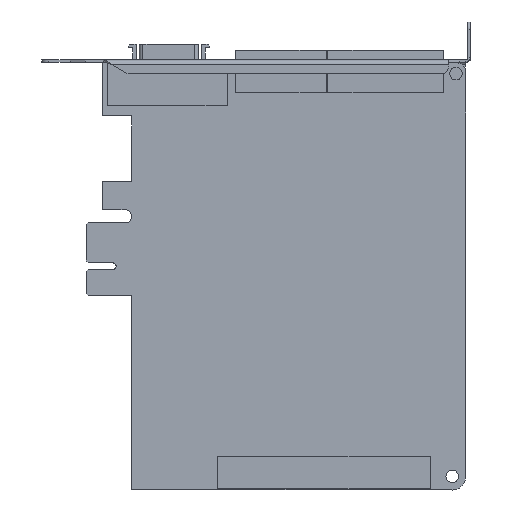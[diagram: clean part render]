
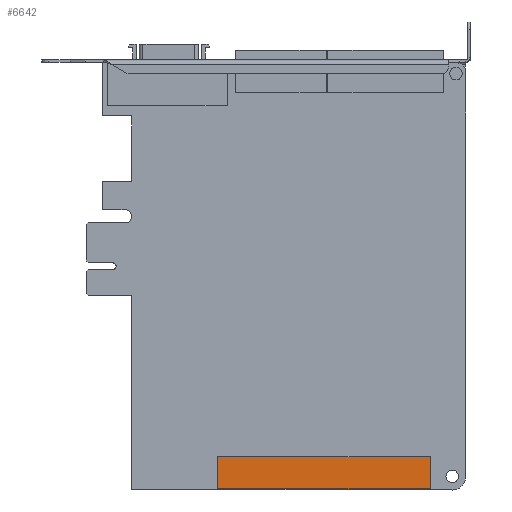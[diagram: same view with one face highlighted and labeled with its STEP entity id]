
A CAD part, left-side view. The second image highlights one B-rep face of the part: STEP entity #6642.
In plain terms, the highlighted planar face has unit normal (-1, 0, 0) as drawn and (0, 0, -1) by its records, which use the part's own axes.
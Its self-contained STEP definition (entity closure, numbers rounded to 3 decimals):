
#4288=DIRECTION('',(1.,0.,0.));
#4289=VECTOR('',#4288,59.5);
#4290=CARTESIAN_POINT('',(-43.202,-52.458,-9.));
#4291=LINE('',#4290,#4289);
#4292=DIRECTION('',(0.,1.,0.));
#4293=VECTOR('',#4292,9.);
#4294=CARTESIAN_POINT('',(-43.202,-61.458,-9.));
#4295=LINE('',#4294,#4293);
#4296=DIRECTION('',(-1.,0.,0.));
#4297=VECTOR('',#4296,59.5);
#4298=CARTESIAN_POINT('',(16.298,-61.458,-9.));
#4299=LINE('',#4298,#4297);
#4300=DIRECTION('',(0.,-1.,0.));
#4301=VECTOR('',#4300,9.);
#4302=CARTESIAN_POINT('',(16.298,-52.458,-9.));
#4303=LINE('',#4302,#4301);
#4488=CARTESIAN_POINT('',(-43.202,-52.458,-9.));
#4489=CARTESIAN_POINT('',(16.298,-52.458,-9.));
#4490=VERTEX_POINT('',#4488);
#4491=VERTEX_POINT('',#4489);
#4492=CARTESIAN_POINT('',(16.298,-61.458,-9.));
#4493=VERTEX_POINT('',#4492);
#4494=CARTESIAN_POINT('',(-43.202,-61.458,-9.));
#4495=VERTEX_POINT('',#4494);
#6631=CARTESIAN_POINT('',(0.,0.,-9.));
#6632=DIRECTION('',(0.,0.,-1.));
#6633=DIRECTION('',(0.,-1.,0.));
#6634=AXIS2_PLACEMENT_3D('',#6631,#6632,#6633);
#6635=PLANE('',#6634);
#6636=ORIENTED_EDGE('',*,*,#6583,.F.);
#6637=ORIENTED_EDGE('',*,*,#6598,.F.);
#6638=ORIENTED_EDGE('',*,*,#6612,.F.);
#6639=ORIENTED_EDGE('',*,*,#6625,.F.);
#6640=EDGE_LOOP('',(#6636,#6637,#6638,#6639));
#6641=FACE_OUTER_BOUND('',#6640,.F.);
#6642=ADVANCED_FACE('',(#6641),#6635,.T.);
#6583=EDGE_CURVE('',#4490,#4491,#4291,.T.);
#6598=EDGE_CURVE('',#4495,#4490,#4295,.T.);
#6612=EDGE_CURVE('',#4493,#4495,#4299,.T.);
#6625=EDGE_CURVE('',#4491,#4493,#4303,.T.);
